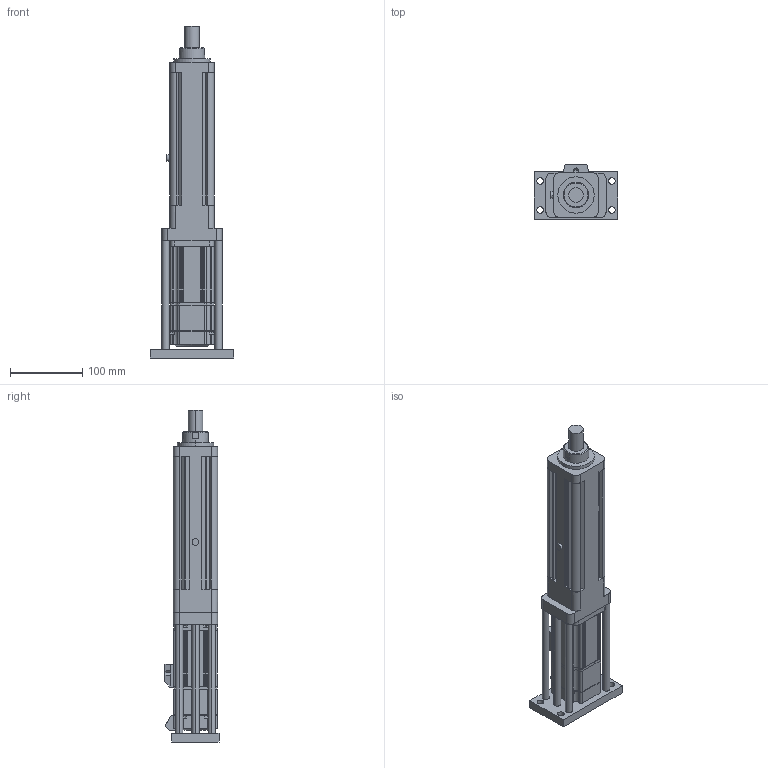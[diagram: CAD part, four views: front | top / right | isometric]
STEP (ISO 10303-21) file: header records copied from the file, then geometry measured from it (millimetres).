
FILE_DESCRIPTION (( 'STEP AP203' ), '1' );
FILE_NAME ('S2眻盄綴楊擘假蚾.STEP', '2024-05-27T05:14:22', ( '' ), ( '' ), 'SwSTEP 2.0', 'SolidWorks 2018', '' );
FILE_SCHEMA (( 'CONFIG_CONTROL_DESIGN' ));
Length unit declared in the file: millimetre
Products named in the file (3): S2眻盄綴楊擘; 陓豎400W 湍价陬; S2眻盄綴楊擘假蚾
Assembly tree (2 placements, depth 2):
  S2眻盄綴楊擘假蚾
    S2眻盄綴楊擘
    陓豎400W 湍价陬
Bounding box: 115 x 74.5 x 458 mm (x, y, z)
Volume: 648081 mm3; surface area: 266125.4 mm2
Topology: 1 solids, 29 shells, 756 faces, 2159 edges, 1463 vertices
Faces by surface type: plane 370, cylinder 367, cone 11, torus 8
Entity records: 25153 total; most frequent: DIRECTION 4565, CARTESIAN_POINT 4500, ORIENTED_EDGE 3822, EDGE_CURVE 2159, AXIS2_PLACEMENT_3D 1664, VERTEX_POINT 1463, VECTOR 1237, LINE 1237
